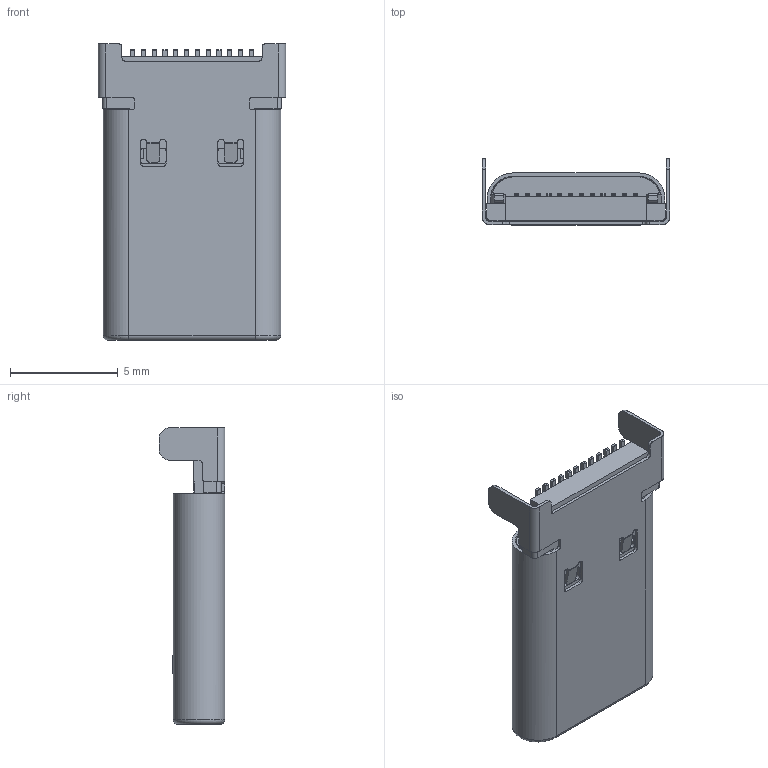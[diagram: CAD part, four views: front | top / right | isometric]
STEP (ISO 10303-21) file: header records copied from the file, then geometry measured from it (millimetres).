
FILE_DESCRIPTION (( 'STEP AP214' ), '1' );
FILE_NAME ('U5163-24PED0.95C13.75L.STEP', '2026-05-25T00:50:32', ( '' ), ( '' ), 'SwSTEP 2.0', 'SolidWorks 2024', '' );
FILE_SCHEMA (( 'AUTOMOTIVE_DESIGN' ));
Length unit declared in the file: millimetre
Products named in the file (1): U5163-24PED0.95C13.75L
Bounding box: 8.7 x 3.05 x 13.75 mm (x, y, z)
Surface area: 1205.5 mm2 (no closed solid volume)
Topology: 0 solids, 15 shells, 2752 faces, 7932 edges, 5130 vertices
Faces by surface type: plane 2272, cylinder 426, bspline 31, cone 19, torus 4
Entity records: 98505 total; most frequent: CARTESIAN_POINT 42227, ORIENTED_EDGE 15814, B_SPLINE_CURVE_WITH_KNOTS 7932, EDGE_CURVE 7932, DIRECTION 5444, VERTEX_POINT 5130, EDGE_LOOP 2830, ADVANCED_FACE 2752
